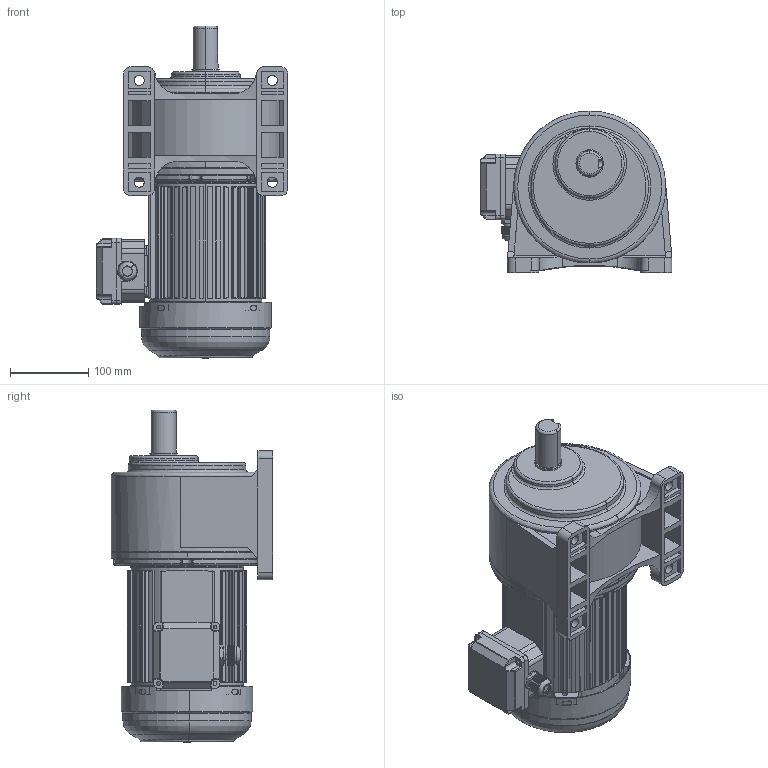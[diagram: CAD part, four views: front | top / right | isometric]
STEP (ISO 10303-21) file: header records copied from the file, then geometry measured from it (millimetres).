
FILE_DESCRIPTION (( 'STEP AP203' ), '1' );
FILE_NAME ('750W饜4#湍价陬拏宒.STEP', '2020-04-17T07:44:32', ( '' ), ( '' ), 'SwSTEP 2.0', 'SolidWorks 2019', '' );
FILE_SCHEMA (( 'CONFIG_CONTROL_DESIGN' ));
Length unit declared in the file: millimetre
Products named in the file (5): 750W价陬瑞欶; 750W棠憤迖殤; 750W饜4#拏宒; 湍价陬諉盄碟裔; 750W饜4#湍价陬拏宒
Assembly tree (4 placements, depth 2):
  750W饜4#湍价陬拏宒
    750W饜4#拏宒
    750W棠憤迖殤
    750W价陬瑞欶
    湍价陬諉盄碟裔
Bounding box: 245 x 206.5 x 424 mm (x, y, z)
Volume: 341621.7 mm3; surface area: 801168.1 mm2
Topology: 3 solids, 10 shells, 3102 faces, 8108 edges, 5038 vertices
Faces by surface type: plane 1086, cylinder 920, bspline 563, torus 280, cone 165, sphere 88
Entity records: 143725 total; most frequent: CARTESIAN_POINT 74732, ORIENTED_EDGE 16016, DIRECTION 11656, EDGE_CURVE 8010, VERTEX_POINT 5031, AXIS2_PLACEMENT_3D 4280, EDGE_LOOP 3467, LINE 3096
